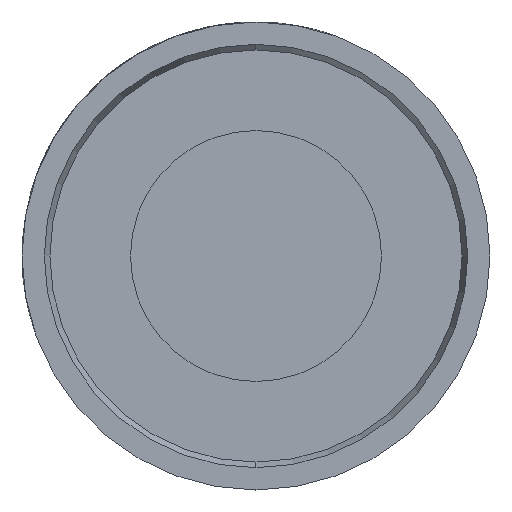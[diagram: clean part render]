
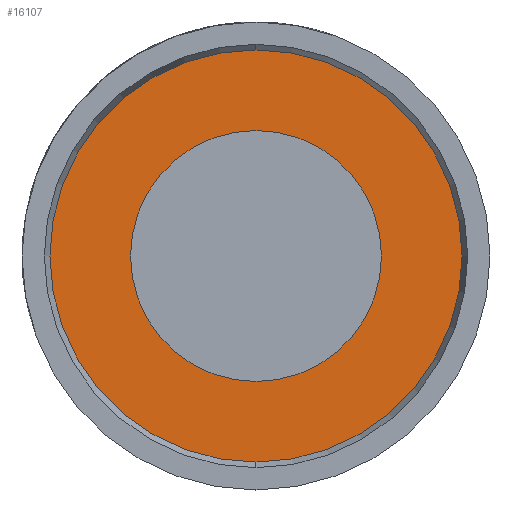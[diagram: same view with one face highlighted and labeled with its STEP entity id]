
A CAD part, left-side view. The second image highlights one B-rep face of the part: STEP entity #16107.
In plain terms, the highlighted planar face has unit normal (-1, 0, 0).
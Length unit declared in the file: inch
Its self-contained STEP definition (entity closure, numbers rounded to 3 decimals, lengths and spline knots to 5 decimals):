
#229 = EDGE_CURVE ( 'NONE', #7751, #12344, #12824, .T. ) ;
#536 = DIRECTION ( 'NONE',  ( 0., 0., 1. ) ) ;
#1128 = DIRECTION ( 'NONE',  ( -1., 0., 0. ) ) ;
#1325 = ORIENTED_EDGE ( 'NONE', *, *, #9417, .T. ) ;
#1479 = CIRCLE ( 'NONE', #3971, 0.055 ) ;
#2394 = DIRECTION ( 'NONE',  ( -1., 0., 0. ) ) ;
#2948 = AXIS2_PLACEMENT_3D ( 'NONE', #10795, #2394, #536 ) ;
#2963 = PLANE ( 'NONE',  #14459 ) ;
#3041 = DIRECTION ( 'NONE',  ( 0., 0., 1. ) ) ;
#3856 = ORIENTED_EDGE ( 'NONE', *, *, #5334, .F. ) ;
#3971 = AXIS2_PLACEMENT_3D ( 'NONE', #9215, #21068, #15887 ) ;
#5081 = FACE_OUTER_BOUND ( 'NONE', #12844, .T. ) ;
#5109 = CARTESIAN_POINT ( 'NONE',  ( 0., 0., 0.055 ) ) ;
#5334 = EDGE_CURVE ( 'NONE', #12344, #7751, #8598, .T. ) ;
#6751 = ORIENTED_EDGE ( 'NONE', *, *, #229, .F. ) ;
#7751 = VERTEX_POINT ( 'NONE', #10373 ) ;
#8598 = CIRCLE ( 'NONE', #11383, 0.0335 ) ;
#9215 = CARTESIAN_POINT ( 'NONE',  ( 0., 0., 0. ) ) ;
#9339 = DIRECTION ( 'NONE',  ( 0., 0., 1. ) ) ;
#9417 = EDGE_CURVE ( 'NONE', #15913, #18426, #14944, .T. ) ;
#10044 = DIRECTION ( 'NONE',  ( 0., 0., -1. ) ) ;
#10373 = CARTESIAN_POINT ( 'NONE',  ( 0., 0., 0.0335 ) ) ;
#10795 = CARTESIAN_POINT ( 'NONE',  ( 0., 0., 0. ) ) ;
#10963 = CARTESIAN_POINT ( 'NONE',  ( 0., 0., 0. ) ) ;
#11347 = CARTESIAN_POINT ( 'NONE',  ( 0., 0., 0. ) ) ;
#11383 = AXIS2_PLACEMENT_3D ( 'NONE', #18002, #21201, #3041 ) ;
#11549 = DIRECTION ( 'NONE',  ( 1., 0., 0. ) ) ;
#12031 = CARTESIAN_POINT ( 'NONE',  ( 0., 0., -0.0335 ) ) ;
#12344 = VERTEX_POINT ( 'NONE', #12031 ) ;
#12548 = CARTESIAN_POINT ( 'NONE',  ( 0., 0., -0.055 ) ) ;
#12824 = CIRCLE ( 'NONE', #2948, 0.0335 ) ;
#12844 = EDGE_LOOP ( 'NONE', ( #1325, #15427 ) ) ;
#14459 = AXIS2_PLACEMENT_3D ( 'NONE', #11347, #11549, #10044 ) ;
#14944 = CIRCLE ( 'NONE', #21241, 0.055 ) ;
#15427 = ORIENTED_EDGE ( 'NONE', *, *, #17798, .T. ) ;
#15887 = DIRECTION ( 'NONE',  ( 0., 0., 1. ) ) ;
#15913 = VERTEX_POINT ( 'NONE', #5109 ) ;
#16107 = ADVANCED_FACE ( 'NONE', ( #21339, #5081 ), #2963, .F. ) ;
#17798 = EDGE_CURVE ( 'NONE', #18426, #15913, #1479, .T. ) ;
#18002 = CARTESIAN_POINT ( 'NONE',  ( 0., 0., 0. ) ) ;
#18410 = EDGE_LOOP ( 'NONE', ( #6751, #3856 ) ) ;
#18426 = VERTEX_POINT ( 'NONE', #12548 ) ;
#21068 = DIRECTION ( 'NONE',  ( -1., 0., 0. ) ) ;
#21201 = DIRECTION ( 'NONE',  ( -1., 0., 0. ) ) ;
#21241 = AXIS2_PLACEMENT_3D ( 'NONE', #10963, #1128, #9339 ) ;
#21339 = FACE_BOUND ( 'NONE', #18410, .T. ) ;
